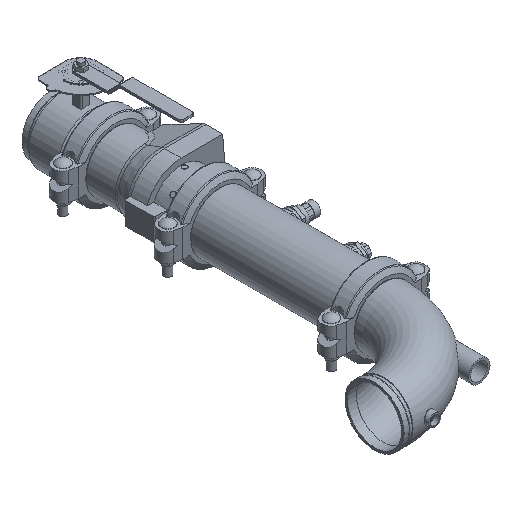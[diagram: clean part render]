
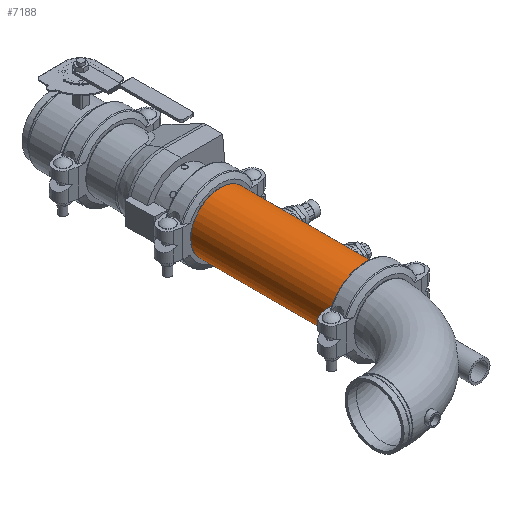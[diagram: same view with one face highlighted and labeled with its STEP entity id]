
A CAD part, isometric view. The second image highlights one B-rep face of the part: STEP entity #7188.
In plain terms, the highlighted cylindrical face has radius 84.138 mm (diameter 168.275 mm), a full revolution.
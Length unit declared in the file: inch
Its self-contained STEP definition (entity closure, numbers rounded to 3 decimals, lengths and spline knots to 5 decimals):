
#177=LINE('',#10884,#711);
#711=VECTOR('',#8646,3.3125);
#1245=CYLINDRICAL_SURFACE('',#7771,3.3125);
#1481=FACE_OUTER_BOUND('',#1886,.T.);
#1886=EDGE_LOOP('',(#4510,#4511,#4512,#4513,#4514,#4515));
#2377=CIRCLE('',#7769,3.3125);
#2378=CIRCLE('',#7770,3.3125);
#2379=CIRCLE('',#7772,3.3125);
#2380=CIRCLE('',#7773,3.3125);
#2788=VERTEX_POINT('',#10875);
#2789=VERTEX_POINT('',#10876);
#2790=VERTEX_POINT('',#10880);
#2791=VERTEX_POINT('',#10881);
#3478=EDGE_CURVE('',#2788,#2789,#2377,.T.);
#3479=EDGE_CURVE('',#2789,#2788,#2378,.T.);
#3480=EDGE_CURVE('',#2790,#2791,#2379,.T.);
#3481=EDGE_CURVE('',#2791,#2790,#2380,.T.);
#3482=EDGE_CURVE('',#2791,#2789,#177,.T.);
#4510=ORIENTED_EDGE('',*,*,#3480,.F.);
#4511=ORIENTED_EDGE('',*,*,#3481,.F.);
#4512=ORIENTED_EDGE('',*,*,#3482,.T.);
#4513=ORIENTED_EDGE('',*,*,#3479,.T.);
#4514=ORIENTED_EDGE('',*,*,#3478,.T.);
#4515=ORIENTED_EDGE('',*,*,#3482,.F.);
#7188=ADVANCED_FACE('',(#1481),#1245,.T.);
#7769=AXIS2_PLACEMENT_3D('',#10877,#8636,#8637);
#7770=AXIS2_PLACEMENT_3D('',#10878,#8638,#8639);
#7771=AXIS2_PLACEMENT_3D('',#10879,#8640,#8641);
#7772=AXIS2_PLACEMENT_3D('',#10882,#8642,#8643);
#7773=AXIS2_PLACEMENT_3D('',#10883,#8644,#8645);
#8636=DIRECTION('center_axis',(1.,0.,0.));
#8637=DIRECTION('ref_axis',(0.,0.,-1.));
#8638=DIRECTION('center_axis',(1.,0.,0.));
#8639=DIRECTION('ref_axis',(0.,0.,-1.));
#8640=DIRECTION('center_axis',(1.,0.,0.));
#8641=DIRECTION('ref_axis',(0.,1.,0.));
#8642=DIRECTION('center_axis',(1.,0.,0.));
#8643=DIRECTION('ref_axis',(0.,0.,-1.));
#8644=DIRECTION('center_axis',(1.,0.,0.));
#8645=DIRECTION('ref_axis',(0.,0.,-1.));
#8646=DIRECTION('',(-1.,0.,0.));
#10875=CARTESIAN_POINT('',(-8.091,3.3125,0.));
#10876=CARTESIAN_POINT('',(-8.091,-3.3125,0.));
#10877=CARTESIAN_POINT('Origin',(-8.091,0.,0.));
#10878=CARTESIAN_POINT('Origin',(-8.091,0.,0.));
#10879=CARTESIAN_POINT('Origin',(0.,0.,0.));
#10880=CARTESIAN_POINT('',(8.091,3.3125,0.));
#10881=CARTESIAN_POINT('',(8.091,-3.3125,0.));
#10882=CARTESIAN_POINT('Origin',(8.091,0.,0.));
#10883=CARTESIAN_POINT('Origin',(8.091,0.,0.));
#10884=CARTESIAN_POINT('',(0.,-3.3125,0.));
